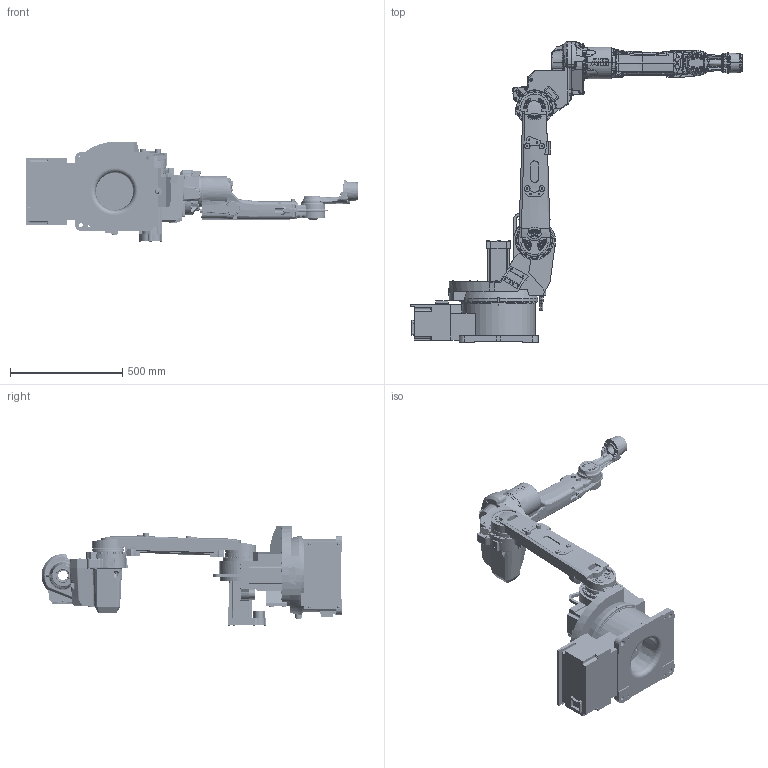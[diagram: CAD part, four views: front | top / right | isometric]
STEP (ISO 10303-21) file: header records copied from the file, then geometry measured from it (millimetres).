
FILE_DESCRIPTION (( 'STEP AP214' ), '1' );
FILE_NAME ('IRB1520ID_4_150__02_step_c.STEP', '2013-04-09T05:10:44', ( 'ABB' ), ( 'ABB' ), 'SwSTEP 2.0', 'SolidWorks 2010', '' );
FILE_SCHEMA (( 'AUTOMOTIVE_DESIGN' ));
Length unit declared in the file: millimetre
Products named in the file (8): IRB1520ID_4_150__02_base__j; IRB1520ID_4_150__02_link1__j; IRB1520ID_4_150__02_link2__j; IRB1520ID_4_150__02_link3__j; IRB1520ID_4_150__02_link4__j; IRB1520ID_4_150__02_link5__j; IRB1520ID_4_150__02_link6__j; IRB1520ID_4_150__02_step_c
Assembly tree (7 placements, depth 2):
  IRB1520ID_4_150__02_step_c
    IRB1520ID_4_150__02_base__j
    IRB1520ID_4_150__02_link1__j
    IRB1520ID_4_150__02_link2__j
    IRB1520ID_4_150__02_link3__j
    IRB1520ID_4_150__02_link4__j
    IRB1520ID_4_150__02_link5__j
    IRB1520ID_4_150__02_link6__j
Bounding box: 1477 x 1338.5 x 444.87 mm (x, y, z)
Volume: 59668143.7 mm3; surface area: 3860213.8 mm2
Topology: 14 solids, 36 shells, 5053 faces, 12844 edges, 8232 vertices
Faces by surface type: plane 2303, cylinder 1396, bspline 673, torus 383, cone 280, sphere 18
Entity records: 286266 total; most frequent: CARTESIAN_POINT 113686, ORIENTED_EDGE 25630, DIRECTION 22094, EDGE_CURVE 12815, VERTEX_POINT 8232, AXIS2_PLACEMENT_3D 7820, LINE 6454, VECTOR 6454
